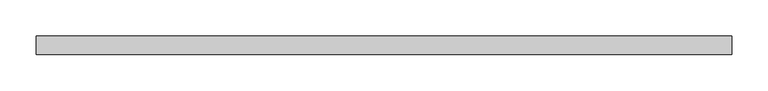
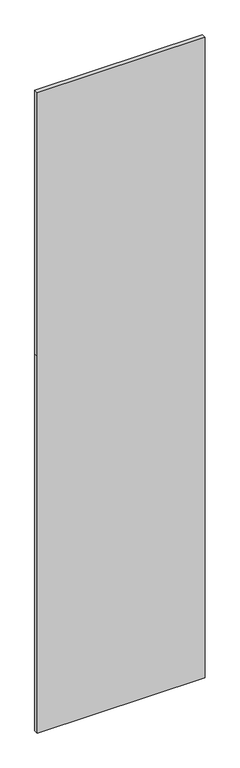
"""IFC4 building model written with IfcOpenShell, lengths in millimetres: plate geometry, 系统嵌板 : 玻璃."""

import ifcopenshell
import ifcopenshell.guid

model = None  # the IFC model being written
_history = None  # IfcOwnerHistory: only IFC2X3 demands one
_inside = {}  # id of a spatial element -> (the spatial element, [elements in it])
_under = {}  # id of a project, library or spatial element -> (it, [spatial elements below it])
_declared = {}  # id of a project -> (the project, [libraries it declares])
_typed = {}  # id of a type object -> (the type object, [elements of that type])
_made_of = {}  # id of a material, layer set ... -> (it, [elements and type objects made of it])


def new_model(schema):
    """Start an empty IFC model of exactly this schema.

    Asked for "IFC4X3", IfcOpenShell would pick the latest addendum, in which some entities
    have other attributes; the version numbers below select the first issue.
    IFC2X3 requires an IfcOwnerHistory on every rooted entity: one is made here for all.
    """
    global model, _history
    if schema == "IFC4X3":
        model = ifcopenshell.file(schema_version=(4, 3, 0, 0))
    else:
        model = ifcopenshell.file(schema=schema)
    _inside.clear()
    _under.clear()
    _declared.clear()
    _typed.clear()
    _made_of.clear()
    _history = None
    if model.schema == "IFC2X3":
        org = make("IfcOrganization", Name="unknown")
        user = make(
            "IfcPersonAndOrganization",
            ThePerson=make("IfcPerson", FamilyName="unknown"),
            TheOrganization=org,
        )
        app = make(
            "IfcApplication",
            ApplicationDeveloper=org,
            Version="unknown",
            ApplicationFullName="unknown",
            ApplicationIdentifier="unknown",
        )
        _history = make(
            "IfcOwnerHistory",
            OwningUser=user,
            OwningApplication=app,
            ChangeAction="ADDED",
            CreationDate=0,
        )
    return model


def make(cls, **values):
    """One entity of the class cls with the attributes given. An attribute that is None is left unset."""
    return model.create_entity(
        cls, **{name: value for name, value in values.items() if value is not None}
    )


def rooted(cls, **values):
    """An entity with a GlobalId (a new one), such as an element, a storey or a relation."""
    return make(cls, GlobalId=ifcopenshell.guid.new(), OwnerHistory=_history, **values)


def si_unit(unit_type, name, prefix=None):
    """IfcSIUnit, for example si_unit("LENGTHUNIT", "METRE", prefix="MILLI")."""
    return make("IfcSIUnit", UnitType=unit_type, Prefix=prefix, Name=name)


def assignment(units):
    """IfcUnitAssignment: the units of a project."""
    return None if units is None else make("IfcUnitAssignment", Units=units)


def point(xyz):
    """IfcCartesianPoint."""
    return None if xyz is None else make("IfcCartesianPoint", Coordinates=xyz)


def direction(xyz):
    """IfcDirection."""
    return None if xyz is None else make("IfcDirection", DirectionRatios=xyz)


def frame(location, z_axis=None, x_axis=None):
    """IfcAxis2Placement3D, a coordinate frame: its origin and axes. An axis left out is left unset."""
    return make(
        "IfcAxis2Placement3D",
        Location=point(location),
        Axis=direction(z_axis),
        RefDirection=direction(x_axis),
    )


def origin():
    """The frame at (0, 0, 0) with its axes left unset."""
    return frame((0.0, 0.0, 0.0))


def place(relative_to, where):
    """IfcLocalPlacement: puts the frame where relative to a parent placement (None: the world)."""
    return make(
        "IfcLocalPlacement", PlacementRelTo=relative_to, RelativePlacement=where
    )


def context(
    kind, dimensions, precision=None, world=None, true_north=None, identifier=None
):
    """IfcGeometricRepresentationContext, for example the 3D "Model" context."""
    return make(
        "IfcGeometricRepresentationContext",
        ContextIdentifier=identifier,
        ContextType=kind,
        CoordinateSpaceDimension=dimensions,
        Precision=precision,
        WorldCoordinateSystem=world,
        TrueNorth=true_north,
    )


def project(units=None, contexts=None):
    """IfcProject with its units and contexts."""
    return rooted(
        "IfcProject",
        Name="project",
        RepresentationContexts=contexts,
        UnitsInContext=assignment(units),
    )


def spatial(cls, under=None, at=None, **own):
    """A site, building, storey or space (cls), placed at a placement, below another one or the project."""
    s = rooted(cls, ObjectPlacement=at, **own)
    if under is not None:
        _under.setdefault(under.id(), (under, []))[1].append(s)
    return s


def polyline(points):
    """IfcPolyline through the points."""
    return make("IfcPolyline", Points=[point(p) for p in points])


def outline(outer, holes=None, kind="AREA"):
    """IfcArbitraryClosedProfileDef: a profile drawn as a closed curve; with holes, ...WithVoids."""
    if holes is None:
        return make("IfcArbitraryClosedProfileDef", ProfileType=kind, OuterCurve=outer)
    return make(
        "IfcArbitraryProfileDefWithVoids",
        ProfileType=kind,
        OuterCurve=outer,
        InnerCurves=holes,
    )


def extrude(swept, where, along, depth):
    """IfcExtrudedAreaSolid: the profile swept, set in the frame where, extruded along a direction by depth."""
    return make(
        "IfcExtrudedAreaSolid",
        SweptArea=swept,
        Position=where,
        ExtrudedDirection=direction(along),
        Depth=depth,
    )


def shape(context_of_items, identifier, shape_type, items):
    """IfcShapeRepresentation: the items that make up one representation, for example the "Body"."""
    return make(
        "IfcShapeRepresentation",
        ContextOfItems=context_of_items,
        RepresentationIdentifier=identifier,
        RepresentationType=shape_type,
        Items=items,
    )


def source(mapping_origin, context_of_items, identifier, shape_type, items):
    """IfcRepresentationMap: a shape defined once, which mapped items show again and again."""
    return make(
        "IfcRepresentationMap",
        MappingOrigin=mapping_origin,
        MappedRepresentation=shape(context_of_items, identifier, shape_type, items),
    )


def transform(
    local_origin,
    x_axis=None,
    y_axis=None,
    z_axis=None,
    scale=None,
    scale2=None,
    scale3=None,
    uniform=True,
):
    """IfcCartesianTransformationOperator3D, or its non-uniform kind. x_axis, y_axis, z_axis: its Axis1, 2, 3."""
    if uniform:
        return make(
            "IfcCartesianTransformationOperator3D",
            Axis1=direction(x_axis),
            Axis2=direction(y_axis),
            LocalOrigin=point(local_origin),
            Scale=scale,
            Axis3=direction(z_axis),
        )
    return make(
        "IfcCartesianTransformationOperator3DnonUniform",
        Axis1=direction(x_axis),
        Axis2=direction(y_axis),
        LocalOrigin=point(local_origin),
        Scale=scale,
        Axis3=direction(z_axis),
        Scale2=scale2,
        Scale3=scale3,
    )


def mapped(mapping_source, mapping_target):
    """IfcMappedItem: shows the shape of a source again, moved by a transform."""
    return make(
        "IfcMappedItem", MappingSource=mapping_source, MappingTarget=mapping_target
    )


def made_of(thing, what):
    """Note that an element or type object is made of a material, layer set ...; save() writes the relation."""
    if what is not None:
        _made_of.setdefault(what.id(), (what, []))[1].append(thing)
    return thing


def element(
    cls,
    number,
    at=None,
    inside=None,
    cuts=None,
    type_object=None,
    material=None,
    context=None,
    identifier="Body",
    shape_type=None,
    held_by="IfcProductDefinitionShape",
    body=None,
    shapes=None,
    **own,
):
    """One element of the class cls, such as IfcWall. Its Tag is "e" and its number.

    at: its placement. inside: the storey or other place that contains it. cuts: it is an
    opening in that element (IfcRelVoidsElement). A single representation is given by context,
    identifier, shape_type and body (its items); several are given by shapes. held_by: the class
    of the entity that holds the representations. save() writes the other relations.
    """
    e = rooted(cls, Tag="e%d" % number, ObjectPlacement=at, **own)
    if body is not None:
        shapes = [shape(context, identifier, shape_type, body)]
    if shapes is not None:
        e.Representation = make(held_by, Representations=shapes)
    if inside is not None:
        _inside.setdefault(inside.id(), (inside, []))[1].append(e)
    if cuts is not None:
        rooted(
            "IfcRelVoidsElement", RelatingBuildingElement=cuts, RelatedOpeningElement=e
        )
    if type_object is not None:
        _typed.setdefault(type_object.id(), (type_object, []))[1].append(e)
    return made_of(e, material)


def aggregate(whole, parts):
    """IfcRelAggregates: a whole, such as a stair, and the parts it consists of."""
    return rooted("IfcRelAggregates", RelatingObject=whole, RelatedObjects=parts)


def save(model, path):
    """Write the relations noted so far, then the file.

    IfcRelAggregates (storeys below a building ...), IfcRelContainedInSpatialStructure (elements
    in a storey), IfcRelDefinesByType, IfcRelAssociatesMaterial and IfcRelDeclares: one each for
    every whole, place, type object, material and project.
    """
    for whole, parts in _under.values():
        aggregate(whole, parts)
    for where, things in _inside.values():
        rooted(
            "IfcRelContainedInSpatialStructure",
            RelatedElements=things,
            RelatingStructure=where,
        )
    for kind, things in _typed.values():
        rooted("IfcRelDefinesByType", RelatedObjects=things, RelatingType=kind)
    for what, things in _made_of.values():
        rooted("IfcRelAssociatesMaterial", RelatedObjects=things, RelatingMaterial=what)
    for by, libraries in _declared.values():
        rooted("IfcRelDeclares", RelatingContext=by, RelatedDefinitions=libraries)
    model.write(path)


def plate_5c3fc420(model_context):
    return source(origin(), model_context, "Body", "SweptSolid", [
        extrude(outline(polyline([(0.0, -477.5), (0.0, 477.5), (2270.0, 477.5), (3855.0, 477.5), (3855.0, -477.5), (2270.0, -477.5), (0.0, -477.5)])), frame((0.0, -12.5, 0.0), z_axis=(0.0, 1.0, 0.0), x_axis=(0.0, 0.0, 1.0)), (0.0, 0.0, 1.0), 25.0),
    ])


if __name__ == "__main__":
    model = new_model("IFC4")
    model_context = context("Model", 3, world=origin())
    ifc_project = project(units=[si_unit("LENGTHUNIT", "METRE", prefix="MILLI")], contexts=[model_context])
    site = spatial("IfcSite", under=ifc_project)
    building = spatial("IfcBuilding", under=site)
    placement = place(None, origin())
    plate_shape = plate_5c3fc420(model_context)
    element("IfcPlate", 1, ObjectType="系统嵌板 : 玻璃", at=placement, inside=building, context=model_context, shape_type="MappedRepresentation", body=[
        mapped(plate_shape, transform((0.0, 0.0, 0.0), x_axis=(1.0, 0.0, 0.0), y_axis=(0.0, 1.0, 0.0), z_axis=(0.0, 0.0, 1.0))),
    ])
    save(model, "model.ifc")
